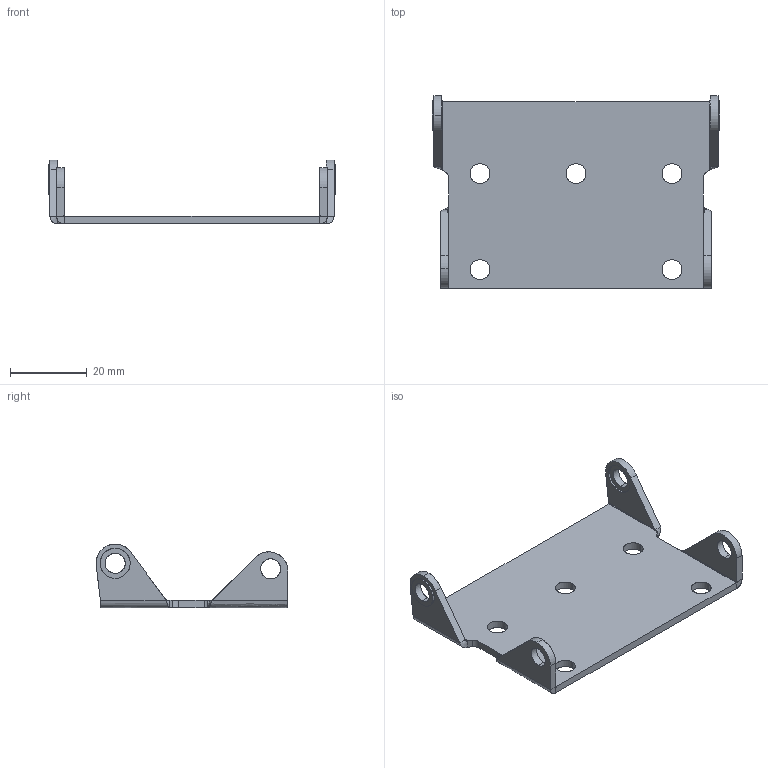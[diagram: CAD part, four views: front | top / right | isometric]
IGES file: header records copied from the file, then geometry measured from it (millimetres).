
Start section: SolidWorks IGES file using analytic representation for surfaces
Global section: file name: C:\Users\cbrechard.SAV\Desktop\GE 91\91 020 000.IGS; native system: SolidWorks 2013; preprocessor: SolidWorks 2013; author: cbrechard; date: 150422.173656; units: millimetre
Bounding box: 75 x 50 x 16.6 mm (x, y, z)
Surface area: 8802.8 mm2 (no closed solid volume)
Topology: 0 solids, 0 shells, 92 faces, 1463 edges, 1460 vertices
Faces by surface type: revolution 52, bspline 40
